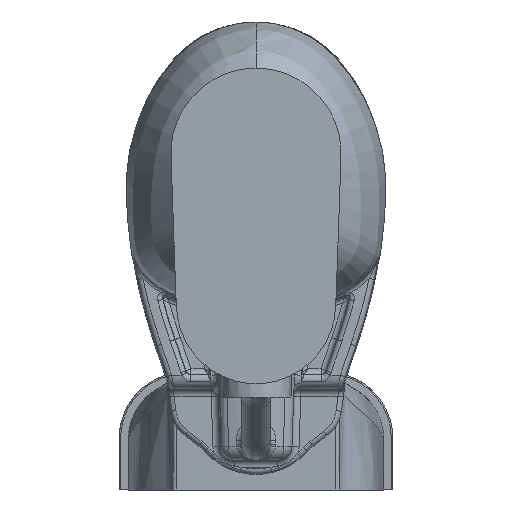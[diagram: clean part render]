
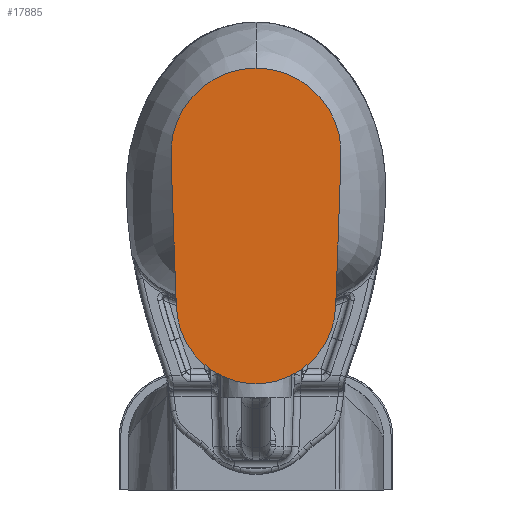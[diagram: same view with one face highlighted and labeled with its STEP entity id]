
A CAD part, front view. The second image highlights one B-rep face of the part: STEP entity #17885.
In plain terms, the highlighted planar face has unit normal (0, -1, 0).
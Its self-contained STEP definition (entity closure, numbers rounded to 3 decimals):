
#571 = DIRECTION ( 'NONE',  ( 1., 0., 0. ) ) ;
#3331 = CARTESIAN_POINT ( 'NONE',  ( -113.107, -489., -57.304 ) ) ;
#3469 = CARTESIAN_POINT ( 'NONE',  ( 0., -489., 260. ) ) ;
#4305 = CARTESIAN_POINT ( 'NONE',  ( -117.984, -489., 80.802 ) ) ;
#4867 = CARTESIAN_POINT ( 'NONE',  ( 116.179, -489., 29.698 ) ) ;
#10804 = CARTESIAN_POINT ( 'NONE',  ( -48.247, -489., 250.792 ) ) ;
#12683 = CARTESIAN_POINT ( 'NONE',  ( 113.31, -489., 181.824 ) ) ;
#13313 = CARTESIAN_POINT ( 'NONE',  ( 102.842, -489., 203.377 ) ) ;
#14204 = ORIENTED_EDGE ( 'NONE', *, *, #73072, .F. ) ;
#17885 = ADVANCED_FACE ( 'NONE', ( #31633 ), #46046, .F. ) ;
#18673 = CARTESIAN_POINT ( 'NONE',  ( -69.701, -489., 238.702 ) ) ;
#19459 = B_SPLINE_CURVE_WITH_KNOTS ( 'NONE', 3,
 ( #86163, #86830, #79305, #10804, #18673, #71104, #41947, #85829, #48137, #48797, #93387, #4305, #34091, #86503, #3331, #55654, #49125, #34749, #64511, #72096, #41280, #56318, #63845, #79643, #19662 ),
 .UNSPECIFIED., .F., .F.,
 ( 4, 1, 1, 1, 1, 1, 1, 1, 2, 1, 1, 1, 2, 1, 1, 1, 1, 1, 1, 1, 4 ),
 ( 0.159, 0.179, 0.199, 0.219, 0.239, 0.259, 0.279, 0.299, 0.319, 0.369, 0.418, 0.468, 0.518, 0.536, 0.553, 0.571, 0.589, 0.606, 0.624, 0.642, 0.659 ),
 .UNSPECIFIED. ) ;
#19662 = CARTESIAN_POINT ( 'NONE',  ( 0., -489., -185. ) ) ;
#21186 = CARTESIAN_POINT ( 'NONE',  ( 117.984, -489., 80.802 ) ) ;
#23769 = CARTESIAN_POINT ( 'NONE',  ( -113.141, -489., -56.331 ) ) ;
#31633 = FACE_OUTER_BOUND ( 'NONE', #32711, .T. ) ;
#32711 = EDGE_LOOP ( 'NONE', ( #14204, #77975 ) ) ;
#34091 = CARTESIAN_POINT ( 'NONE',  ( -116.179, -489., 29.698 ) ) ;
#34749 = CARTESIAN_POINT ( 'NONE',  ( -103.999, -489., -117.121 ) ) ;
#35300 = CARTESIAN_POINT ( 'NONE',  ( 112.189, -489., -83.294 ) ) ;
#35852 = VERTEX_POINT ( 'NONE', #3469 ) ;
#36074 = CARTESIAN_POINT ( 'NONE',  ( 0., -489., -185. ) ) ;
#36264 = CARTESIAN_POINT ( 'NONE',  ( 0., -489., 260. ) ) ;
#37856 = CARTESIAN_POINT ( 'NONE',  ( 22.195, -489., -183.535 ) ) ;
#41280 = CARTESIAN_POINT ( 'NONE',  ( -62.961, -489., -166.594 ) ) ;
#41947 = CARTESIAN_POINT ( 'NONE',  ( -102.842, -489., 203.377 ) ) ;
#42824 = CARTESIAN_POINT ( 'NONE',  ( 110.457, -489., -97.023 ) ) ;
#43457 = CARTESIAN_POINT ( 'NONE',  ( 119.267, -489., 158.937 ) ) ;
#43769 = CARTESIAN_POINT ( 'NONE',  ( 48.247, -489., 250.792 ) ) ;
#44179 = AXIS2_PLACEMENT_3D ( 'NONE', #23769, #60789, #571 ) ;
#46046 = PLANE ( 'NONE',  #44179 ) ;
#48036 = B_SPLINE_CURVE_WITH_KNOTS ( 'NONE', 3,
 ( #36264, #88699, #95571, #43769, #94935, #88368, #13313, #12683, #43457, #95896, #96214, #21186, #4867, #73620, #57210, #35300, #42824, #74569, #51929, #89315, #89632, #73934, #37856, #67341, #81448 ),
 .UNSPECIFIED., .F., .F.,
 ( 4, 1, 1, 1, 1, 1, 1, 1, 2, 1, 1, 1, 2, 1, 1, 1, 1, 1, 1, 1, 4 ),
 ( 0.159, 0.179, 0.199, 0.219, 0.239, 0.259, 0.279, 0.299, 0.319, 0.369, 0.418, 0.468, 0.518, 0.536, 0.553, 0.571, 0.589, 0.606, 0.624, 0.642, 0.659 ),
 .UNSPECIFIED. ) ;
#48137 = CARTESIAN_POINT ( 'NONE',  ( -119.267, -489., 158.937 ) ) ;
#48797 = CARTESIAN_POINT ( 'NONE',  ( -120.196, -489., 143.43 ) ) ;
#48966 = VERTEX_POINT ( 'NONE', #36074 ) ;
#49125 = CARTESIAN_POINT ( 'NONE',  ( -110.457, -489., -97.023 ) ) ;
#51929 = CARTESIAN_POINT ( 'NONE',  ( 93.74, -489., -135.934 ) ) ;
#55654 = CARTESIAN_POINT ( 'NONE',  ( -112.189, -489., -83.294 ) ) ;
#56318 = CARTESIAN_POINT ( 'NONE',  ( -43.469, -489., -177.049 ) ) ;
#57210 = CARTESIAN_POINT ( 'NONE',  ( 113.107, -489., -57.304 ) ) ;
#60789 = DIRECTION ( 'NONE',  ( 0., 1., 0. ) ) ;
#63845 = CARTESIAN_POINT ( 'NONE',  ( -22.195, -489., -183.535 ) ) ;
#64511 = CARTESIAN_POINT ( 'NONE',  ( -93.74, -489., -135.934 ) ) ;
#67341 = CARTESIAN_POINT ( 'NONE',  ( 7.398, -489., -185. ) ) ;
#69882 = EDGE_CURVE ( 'NONE', #35852, #48966, #19459, .T. ) ;
#71104 = CARTESIAN_POINT ( 'NONE',  ( -88.138, -489., 222.636 ) ) ;
#72096 = CARTESIAN_POINT ( 'NONE',  ( -79.918, -489., -152.673 ) ) ;
#73072 = EDGE_CURVE ( 'NONE', #35852, #48966, #48036, .T. ) ;
#73620 = CARTESIAN_POINT ( 'NONE',  ( 114.374, -489., -21.426 ) ) ;
#73934 = CARTESIAN_POINT ( 'NONE',  ( 43.469, -489., -177.049 ) ) ;
#74569 = CARTESIAN_POINT ( 'NONE',  ( 103.999, -489., -117.121 ) ) ;
#77975 = ORIENTED_EDGE ( 'NONE', *, *, #69882, .T. ) ;
#79305 = CARTESIAN_POINT ( 'NONE',  ( -24.671, -489., 258.302 ) ) ;
#79643 = CARTESIAN_POINT ( 'NONE',  ( -7.398, -489., -185. ) ) ;
#81448 = CARTESIAN_POINT ( 'NONE',  ( 0., -489., -185. ) ) ;
#85829 = CARTESIAN_POINT ( 'NONE',  ( -113.31, -489., 181.824 ) ) ;
#86163 = CARTESIAN_POINT ( 'NONE',  ( 0., -489., 260. ) ) ;
#86503 = CARTESIAN_POINT ( 'NONE',  ( -114.374, -489., -21.426 ) ) ;
#86830 = CARTESIAN_POINT ( 'NONE',  ( -8.224, -489., 260. ) ) ;
#88368 = CARTESIAN_POINT ( 'NONE',  ( 88.138, -489., 222.636 ) ) ;
#88699 = CARTESIAN_POINT ( 'NONE',  ( 8.224, -489., 260. ) ) ;
#89315 = CARTESIAN_POINT ( 'NONE',  ( 79.918, -489., -152.673 ) ) ;
#89632 = CARTESIAN_POINT ( 'NONE',  ( 62.961, -489., -166.594 ) ) ;
#93387 = CARTESIAN_POINT ( 'NONE',  ( -119.25, -489., 116.636 ) ) ;
#94935 = CARTESIAN_POINT ( 'NONE',  ( 69.701, -489., 238.702 ) ) ;
#95571 = CARTESIAN_POINT ( 'NONE',  ( 24.671, -489., 258.302 ) ) ;
#95896 = CARTESIAN_POINT ( 'NONE',  ( 120.196, -489., 143.43 ) ) ;
#96214 = CARTESIAN_POINT ( 'NONE',  ( 119.25, -489., 116.636 ) ) ;
